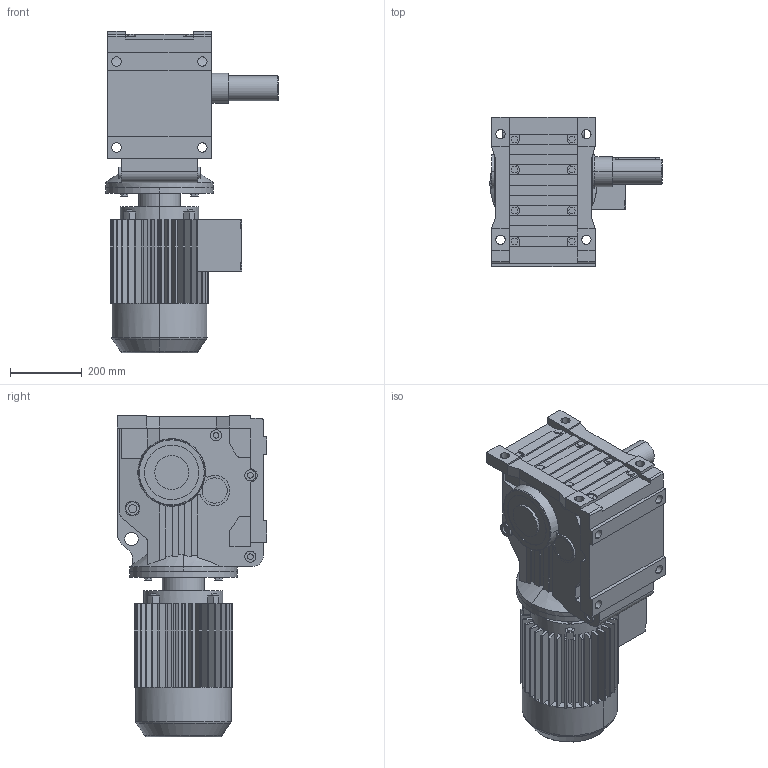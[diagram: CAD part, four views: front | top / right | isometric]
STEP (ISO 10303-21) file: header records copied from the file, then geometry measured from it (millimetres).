
FILE_DESCRIPTION(('Open CASCADE Model'),'2;1');
FILE_NAME('Open CASCADE Shape Model','2021-05-28T11:03:44',('Author'),( 'Open CASCADE'),'Open CASCADE STEP processor 6.3','Open CASCADE 6.3' ,'Unknown');
FILE_SCHEMA(('AUTOMOTIVE_DESIGN_CC2 { 1 2 10303 214 -1 1 5 4 }'));
Length unit declared in the file: millimetre
Products named in the file (4): 1_K97DV160M-A; K37‵157_97.step; 萇儂_300-DV160M-462-574-275-230.step; す瑩妗陑粣K_97.step
Assembly tree (3 placements, depth 2):
  1_K97DV160M-A
    K37‵157_97.step
    萇儂_300-DV160M-462-574-275-230.step
    す瑩妗陑粣K_97.step
Bounding box: 482 x 417 x 899 mm (x, y, z)
Volume: 61292792.6 mm3; surface area: 2184997.5 mm2
Topology: 3 solids, 3 shells, 836 faces, 2204 edges, 1431 vertices
Faces by surface type: plane 582, cylinder 231, cone 15, torus 8
Entity records: 57816 total; most frequent: CARTESIAN_POINT 15938, DIRECTION 7216, ORIENTED_EDGE 4404, PCURVE 4404, DEFINITIONAL_REPRESENTATION 4404, LINE 3932, VECTOR 3932, EDGE_CURVE 2202
